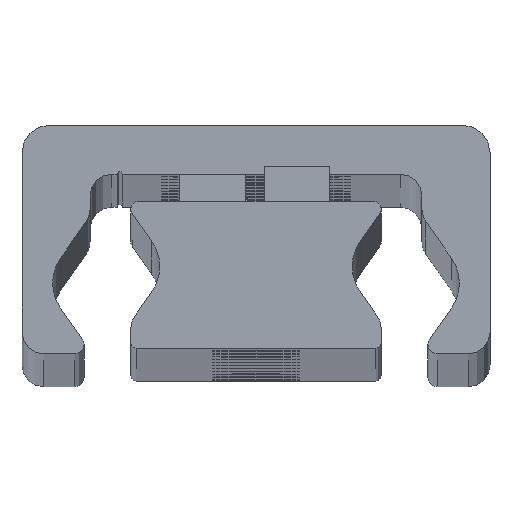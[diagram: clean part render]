
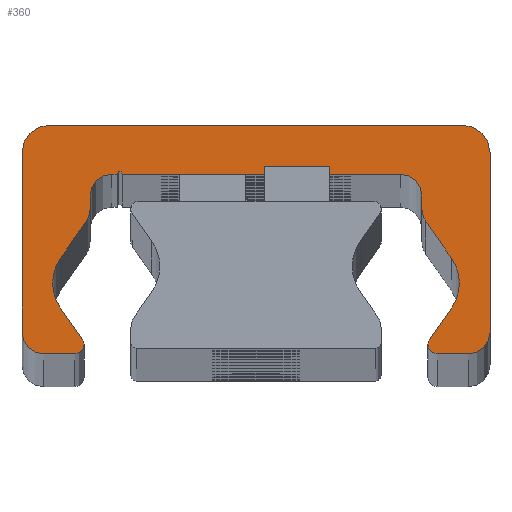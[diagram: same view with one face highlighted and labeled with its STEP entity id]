
A CAD part, top view. The second image highlights one B-rep face of the part: STEP entity #360.
In plain terms, the highlighted planar face has unit normal (0, 0, 1).
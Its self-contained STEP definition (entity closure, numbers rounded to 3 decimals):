
#360=ADVANCED_FACE('',(#1046),#1047,.T.);
#1046=FACE_OUTER_BOUND('',#1733,.T.);
#1047=PLANE('',#1734);
#1733=EDGE_LOOP('',(#4026,#4027,#4028,#4029,#4030,#4031,#4032,#4033,#4034,#4035,#4036,#4037,#4038,#4039,#4040,#4041,#4042,#4043,#4044,#4045,#4046,#4047,#4048,#4049,#4050,#4051,#4052,#4053,#4054,#4055));
#1734=AXIS2_PLACEMENT_3D('',#4056,#4057,#4058);
#4026=ORIENTED_EDGE('',*,*,#4499,.F.);
#4027=ORIENTED_EDGE('',*,*,#4822,.F.);
#4028=ORIENTED_EDGE('',*,*,#4485,.F.);
#4029=ORIENTED_EDGE('',*,*,#4821,.F.);
#4030=ORIENTED_EDGE('',*,*,#4817,.F.);
#4031=ORIENTED_EDGE('',*,*,#4814,.F.);
#4032=ORIENTED_EDGE('',*,*,#4811,.F.);
#4033=ORIENTED_EDGE('',*,*,#4808,.F.);
#4034=ORIENTED_EDGE('',*,*,#4805,.F.);
#4035=ORIENTED_EDGE('',*,*,#4802,.F.);
#4036=ORIENTED_EDGE('',*,*,#4799,.F.);
#4037=ORIENTED_EDGE('',*,*,#4796,.F.);
#4038=ORIENTED_EDGE('',*,*,#4793,.F.);
#4039=ORIENTED_EDGE('',*,*,#4790,.F.);
#4040=ORIENTED_EDGE('',*,*,#4491,.F.);
#4041=ORIENTED_EDGE('',*,*,#4788,.F.);
#4042=ORIENTED_EDGE('',*,*,#4493,.F.);
#4043=ORIENTED_EDGE('',*,*,#4787,.F.);
#4044=ORIENTED_EDGE('',*,*,#4783,.F.);
#4045=ORIENTED_EDGE('',*,*,#4780,.F.);
#4046=ORIENTED_EDGE('',*,*,#4777,.F.);
#4047=ORIENTED_EDGE('',*,*,#4774,.F.);
#4048=ORIENTED_EDGE('',*,*,#4771,.F.);
#4049=ORIENTED_EDGE('',*,*,#4768,.F.);
#4050=ORIENTED_EDGE('',*,*,#4765,.F.);
#4051=ORIENTED_EDGE('',*,*,#4762,.F.);
#4052=ORIENTED_EDGE('',*,*,#4759,.F.);
#4053=ORIENTED_EDGE('',*,*,#4756,.F.);
#4054=ORIENTED_EDGE('',*,*,#4753,.F.);
#4055=ORIENTED_EDGE('',*,*,#4750,.F.);
#4056=CARTESIAN_POINT('',(-0.023,14.187,852.0));
#4057=DIRECTION('',(0.0,0.0,1.0));
#4058=DIRECTION('',(1.0,0.0,0.0));
#4485=EDGE_CURVE('',#5448,#5451,#5452,.T.);
#4491=EDGE_CURVE('',#5461,#5457,#5463,.T.);
#4493=EDGE_CURVE('',#5464,#5467,#5468,.T.);
#4499=EDGE_CURVE('',#5477,#5473,#5479,.T.);
#4750=EDGE_CURVE('',#5473,#5882,#5883,.T.);
#4753=EDGE_CURVE('',#5882,#5887,#5888,.T.);
#4756=EDGE_CURVE('',#5887,#5892,#5893,.T.);
#4759=EDGE_CURVE('',#5892,#5897,#5898,.T.);
#4762=EDGE_CURVE('',#5897,#5902,#5903,.T.);
#4765=EDGE_CURVE('',#5902,#5907,#5908,.T.);
#4768=EDGE_CURVE('',#5907,#5912,#5913,.T.);
#4771=EDGE_CURVE('',#5912,#5917,#5918,.T.);
#4774=EDGE_CURVE('',#5917,#5922,#5923,.T.);
#4777=EDGE_CURVE('',#5922,#5927,#5928,.T.);
#4780=EDGE_CURVE('',#5927,#5932,#5933,.T.);
#4783=EDGE_CURVE('',#5932,#5937,#5938,.T.);
#4787=EDGE_CURVE('',#5937,#5464,#5943,.T.);
#4788=EDGE_CURVE('',#5467,#5461,#5944,.T.);
#4790=EDGE_CURVE('',#5457,#5946,#5947,.T.);
#4793=EDGE_CURVE('',#5946,#5951,#5952,.T.);
#4796=EDGE_CURVE('',#5951,#5956,#5957,.T.);
#4799=EDGE_CURVE('',#5956,#5961,#5962,.T.);
#4802=EDGE_CURVE('',#5961,#5966,#5967,.T.);
#4805=EDGE_CURVE('',#5966,#5971,#5972,.T.);
#4808=EDGE_CURVE('',#5971,#5976,#5977,.T.);
#4811=EDGE_CURVE('',#5976,#5981,#5982,.T.);
#4814=EDGE_CURVE('',#5981,#5986,#5987,.T.);
#4817=EDGE_CURVE('',#5986,#5991,#5992,.T.);
#4821=EDGE_CURVE('',#5991,#5448,#5997,.T.);
#4822=EDGE_CURVE('',#5451,#5477,#5998,.T.);
#5448=VERTEX_POINT('',#6816);
#5451=VERTEX_POINT('',#6820);
#5452=CIRCLE('',#6821,0.85);
#5457=VERTEX_POINT('',#6827);
#5461=VERTEX_POINT('',#6832);
#5463=CIRCLE('',#6835,0.85);
#5464=VERTEX_POINT('',#6836);
#5467=VERTEX_POINT('',#6840);
#5468=CIRCLE('',#6841,4.);
#5473=VERTEX_POINT('',#6847);
#5477=VERTEX_POINT('',#6852);
#5479=CIRCLE('',#6855,4.);
#5882=VERTEX_POINT('',#7372);
#5883=CIRCLE('',#7373,4.);
#5887=VERTEX_POINT('',#7378);
#5888=LINE('',#7379,#7380);
#5892=VERTEX_POINT('',#7386);
#5893=CIRCLE('',#7387,2.);
#5897=VERTEX_POINT('',#7392);
#5898=LINE('',#7393,#7394);
#5902=VERTEX_POINT('',#7400);
#5903=CIRCLE('',#7401,2.0);
#5907=VERTEX_POINT('',#7406);
#5908=LINE('',#7407,#7408);
#5912=VERTEX_POINT('',#7414);
#5913=CIRCLE('',#7415,0.25);
#5917=VERTEX_POINT('',#7420);
#5918=LINE('',#7421,#7422);
#5922=VERTEX_POINT('',#7428);
#5923=CIRCLE('',#7429,2.0);
#5927=VERTEX_POINT('',#7434);
#5928=LINE('',#7435,#7436);
#5932=VERTEX_POINT('',#7442);
#5933=CIRCLE('',#7443,2.0);
#5937=VERTEX_POINT('',#7448);
#5938=LINE('',#7449,#7450);
#5943=CIRCLE('',#7457,4.);
#5944=LINE('',#7458,#7459);
#5946=VERTEX_POINT('',#7462);
#5947=CIRCLE('',#7463,0.85);
#5951=VERTEX_POINT('',#7468);
#5952=LINE('',#7469,#7470);
#5956=VERTEX_POINT('',#7476);
#5957=CIRCLE('',#7477,2.);
#5961=VERTEX_POINT('',#7482);
#5962=LINE('',#7483,#7484);
#5966=VERTEX_POINT('',#7490);
#5967=CIRCLE('',#7491,2.5);
#5971=VERTEX_POINT('',#7496);
#5972=LINE('',#7497,#7498);
#5976=VERTEX_POINT('',#7504);
#5977=CIRCLE('',#7505,2.5);
#5981=VERTEX_POINT('',#7510);
#5982=LINE('',#7511,#7512);
#5986=VERTEX_POINT('',#7518);
#5987=CIRCLE('',#7519,2.);
#5991=VERTEX_POINT('',#7524);
#5992=LINE('',#7525,#7526);
#5997=CIRCLE('',#7533,0.85);
#5998=LINE('',#7534,#7535);
#6816=CARTESIAN_POINT('',(15.8,1.859,852.0));
#6820=CARTESIAN_POINT('',(15.922,2.298,852.0));
#6821=AXIS2_PLACEMENT_3D('',#8331,#8332,#8333);
#6827=CARTESIAN_POINT('',(-15.8,1.859,852.0));
#6832=CARTESIAN_POINT('',(-15.922,2.298,852.0));
#6835=AXIS2_PLACEMENT_3D('',#8343,#8344,#8345);
#6836=CARTESIAN_POINT('',(-18.688,7.509,852.0));
#6840=CARTESIAN_POINT('',(-17.964,5.214,852.0));
#6841=AXIS2_PLACEMENT_3D('',#8347,#8348,#8349);
#6847=CARTESIAN_POINT('',(18.688,7.509,852.0));
#6852=CARTESIAN_POINT('',(17.964,5.214,852.0));
#6855=AXIS2_PLACEMENT_3D('',#8359,#8360,#8361);
#7372=CARTESIAN_POINT('',(17.964,9.803,852.0));
#7373=AXIS2_PLACEMENT_3D('',#8884,#8885,#8886);
#7378=CARTESIAN_POINT('',(15.612,13.163,852.0));
#7379=CARTESIAN_POINT('',(15.612,13.163,852.0));
#7380=VECTOR('',#8891,1.0);
#7386=CARTESIAN_POINT('',(15.25,14.31,852.0));
#7387=AXIS2_PLACEMENT_3D('',#8894,#8895,#8896);
#7392=CARTESIAN_POINT('',(15.25,15.509,852.0));
#7393=CARTESIAN_POINT('',(15.25,15.509,852.0));
#7394=VECTOR('',#8901,1.0);
#7400=CARTESIAN_POINT('',(13.25,17.509,852.0));
#7401=AXIS2_PLACEMENT_3D('',#8904,#8905,#8906);
#7406=CARTESIAN_POINT('',(-12.25,17.509,852.0));
#7407=CARTESIAN_POINT('',(-12.25,17.509,852.0));
#7408=VECTOR('',#8911,1.0);
#7414=CARTESIAN_POINT('',(-12.75,17.509,852.0));
#7415=AXIS2_PLACEMENT_3D('',#8914,#8915,#8916);
#7420=CARTESIAN_POINT('',(-13.25,17.509,852.0));
#7421=CARTESIAN_POINT('',(-13.25,17.509,852.0));
#7422=VECTOR('',#8921,1.0);
#7428=CARTESIAN_POINT('',(-15.25,15.509,852.0));
#7429=AXIS2_PLACEMENT_3D('',#8924,#8925,#8926);
#7434=CARTESIAN_POINT('',(-15.25,14.31,852.0));
#7435=CARTESIAN_POINT('',(-15.25,14.31,852.0));
#7436=VECTOR('',#8931,1.0);
#7442=CARTESIAN_POINT('',(-15.612,13.163,852.0));
#7443=AXIS2_PLACEMENT_3D('',#8934,#8935,#8936);
#7448=CARTESIAN_POINT('',(-17.964,9.803,852.0));
#7449=CARTESIAN_POINT('',(-17.964,9.803,852.0));
#7450=VECTOR('',#8941,1.);
#7457=AXIS2_PLACEMENT_3D('',#8947,#8948,#8949);
#7458=CARTESIAN_POINT('',(-15.922,2.298,852.0));
#7459=VECTOR('',#8950,1.0);
#7462=CARTESIAN_POINT('',(-16.65,1.009,852.0));
#7463=AXIS2_PLACEMENT_3D('',#8952,#8953,#8954);
#7468=CARTESIAN_POINT('',(-19.5,1.009,852.0));
#7469=CARTESIAN_POINT('',(-19.5,1.009,852.0));
#7470=VECTOR('',#8959,1.0);
#7476=CARTESIAN_POINT('',(-21.5,3.009,852.0));
#7477=AXIS2_PLACEMENT_3D('',#8962,#8963,#8964);
#7482=CARTESIAN_POINT('',(-21.5,19.509,852.0));
#7483=CARTESIAN_POINT('',(-21.5,19.509,852.0));
#7484=VECTOR('',#8969,1.0);
#7490=CARTESIAN_POINT('',(-19.0,22.009,852.0));
#7491=AXIS2_PLACEMENT_3D('',#8972,#8973,#8974);
#7496=CARTESIAN_POINT('',(19.0,22.009,852.0));
#7497=CARTESIAN_POINT('',(19.0,22.009,852.0));
#7498=VECTOR('',#8979,1.0);
#7504=CARTESIAN_POINT('',(21.5,19.509,852.0));
#7505=AXIS2_PLACEMENT_3D('',#8982,#8983,#8984);
#7510=CARTESIAN_POINT('',(21.5,3.009,852.0));
#7511=CARTESIAN_POINT('',(21.5,3.009,852.0));
#7512=VECTOR('',#8989,1.0);
#7518=CARTESIAN_POINT('',(19.5,1.009,852.0));
#7519=AXIS2_PLACEMENT_3D('',#8992,#8993,#8994);
#7524=CARTESIAN_POINT('',(16.65,1.009,852.0));
#7525=CARTESIAN_POINT('',(16.65,1.009,852.0));
#7526=VECTOR('',#8999,1.0);
#7533=AXIS2_PLACEMENT_3D('',#9005,#9006,#9007);
#7534=CARTESIAN_POINT('',(17.964,5.214,852.0));
#7535=VECTOR('',#9008,1.0);
#8331=CARTESIAN_POINT('',(16.65,1.859,852.0));
#8332=DIRECTION('',(0.0,0.0,-1.0));
#8333=DIRECTION('',(1.0,0.0,0.0));
#8343=CARTESIAN_POINT('',(-16.65,1.859,852.0));
#8344=DIRECTION('',(0.0,0.0,-1.0));
#8345=DIRECTION('',(1.0,0.0,0.0));
#8347=CARTESIAN_POINT('',(-14.688,7.509,852.0));
#8348=DIRECTION('',(0.0,0.0,1.0));
#8349=DIRECTION('',(1.0,0.0,0.0));
#8359=CARTESIAN_POINT('',(14.688,7.509,852.0));
#8360=DIRECTION('',(0.0,0.0,1.0));
#8361=DIRECTION('',(1.0,0.0,0.0));
#8884=CARTESIAN_POINT('',(14.688,7.509,852.0));
#8885=DIRECTION('',(0.0,0.0,1.0));
#8886=DIRECTION('',(1.0,0.0,0.0));
#8891=DIRECTION('',(-0.574,0.819,0.0));
#8894=CARTESIAN_POINT('',(17.25,14.31,852.0));
#8895=DIRECTION('',(0.0,0.0,-1.0));
#8896=DIRECTION('',(1.0,0.0,0.0));
#8901=DIRECTION('',(0.0,1.0,0.0));
#8904=CARTESIAN_POINT('',(13.25,15.509,852.0));
#8905=DIRECTION('',(0.0,0.0,1.0));
#8906=DIRECTION('',(1.0,0.0,0.0));
#8911=DIRECTION('',(-1.0,-0.0,-0.0));
#8914=CARTESIAN_POINT('',(-12.5,17.509,852.0));
#8915=DIRECTION('',(0.0,0.0,1.0));
#8916=DIRECTION('',(1.0,0.0,0.0));
#8921=DIRECTION('',(-1.0,-0.0,-0.0));
#8924=CARTESIAN_POINT('',(-13.25,15.509,852.0));
#8925=DIRECTION('',(0.0,0.0,1.0));
#8926=DIRECTION('',(1.0,0.0,0.0));
#8931=DIRECTION('',(-0.0,-1.0,-0.0));
#8934=CARTESIAN_POINT('',(-17.25,14.31,852.0));
#8935=DIRECTION('',(0.0,0.0,-1.0));
#8936=DIRECTION('',(1.0,0.0,0.0));
#8941=DIRECTION('',(-0.574,-0.819,-0.0));
#8947=CARTESIAN_POINT('',(-14.688,7.509,852.0));
#8948=DIRECTION('',(0.0,0.0,1.0));
#8949=DIRECTION('',(1.0,0.0,0.0));
#8950=DIRECTION('',(0.574,-0.819,0.0));
#8952=CARTESIAN_POINT('',(-16.65,1.859,852.0));
#8953=DIRECTION('',(0.0,0.0,-1.0));
#8954=DIRECTION('',(1.0,0.0,0.0));
#8959=DIRECTION('',(-1.0,-0.0,-0.0));
#8962=CARTESIAN_POINT('',(-19.5,3.009,852.0));
#8963=DIRECTION('',(0.0,0.0,-1.0));
#8964=DIRECTION('',(1.0,0.0,0.0));
#8969=DIRECTION('',(0.0,1.0,0.0));
#8972=CARTESIAN_POINT('',(-19.0,19.509,852.0));
#8973=DIRECTION('',(0.0,0.0,-1.0));
#8974=DIRECTION('',(1.0,0.0,0.0));
#8979=DIRECTION('',(1.0,0.0,0.0));
#8982=CARTESIAN_POINT('',(19.0,19.509,852.0));
#8983=DIRECTION('',(0.0,0.0,-1.0));
#8984=DIRECTION('',(1.0,0.0,0.0));
#8989=DIRECTION('',(-0.0,-1.0,-0.0));
#8992=CARTESIAN_POINT('',(19.5,3.009,852.0));
#8993=DIRECTION('',(0.0,0.0,-1.0));
#8994=DIRECTION('',(1.0,0.0,0.0));
#8999=DIRECTION('',(-1.0,-0.0,-0.0));
#9005=CARTESIAN_POINT('',(16.65,1.859,852.0));
#9006=DIRECTION('',(0.0,0.0,-1.0));
#9007=DIRECTION('',(1.0,0.0,0.0));
#9008=DIRECTION('',(0.574,0.819,0.0));
